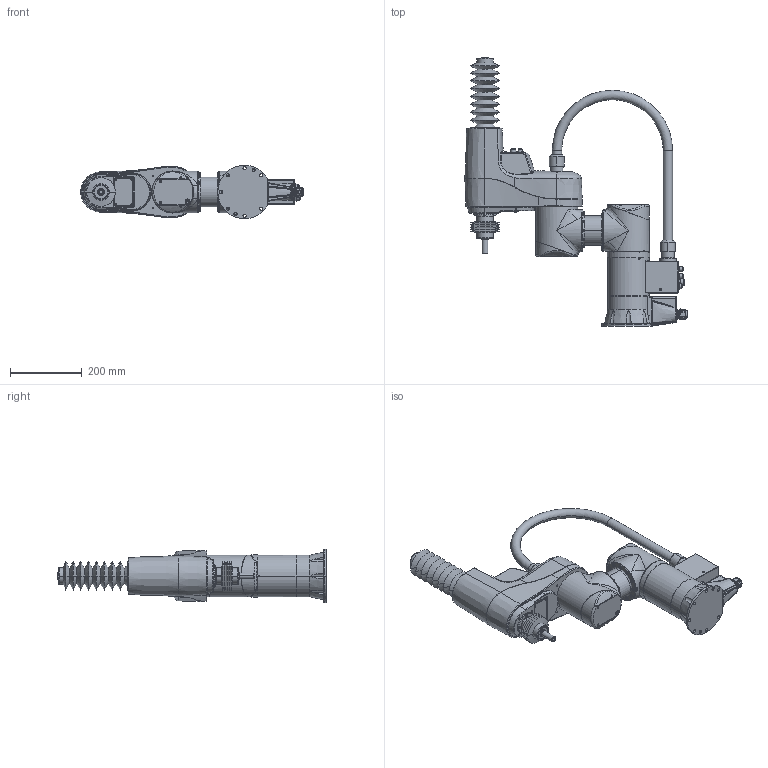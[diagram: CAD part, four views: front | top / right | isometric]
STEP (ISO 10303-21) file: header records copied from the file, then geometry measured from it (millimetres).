
FILE_DESCRIPTION((''),'2;1');
FILE_NAME('ZRB_0440C_15A_ASM','2022-12-14T11:15:32',('ChoSeongHee'),(''),'CREO PARAMETRIC BY PTC INC, 2022244','CREO PARAMETRIC BY PTC INC, 2022244','');
FILE_SCHEMA(('CONFIG_CONTROL_DESIGN'));
Products named in the file (6): BASE_ASM; MIDDLE_ASM; TOP_ASM; BOX; BALLSCREW; ZRB_0440C_15A_ASM
Assembly tree (5 placements, depth 2):
  ZRB_0440C_15A_ASM
    BASE_ASM
    MIDDLE_ASM
    TOP_ASM
    BOX
    BALLSCREW
Bounding box: 619.54 x 747.8 x 148.99 mm (x, y, z)
Volume: 13216071.1 mm3; surface area: 825782.4 mm2
Topology: 5 solids, 7 shells, 4149 faces, 10527 edges, 6491 vertices
Faces by surface type: plane 1471, cylinder 1193, cone 865, bspline 393, torus 190, sphere 20, extrusion 17
Entity records: 196567 total; most frequent: CARTESIAN_POINT 101923, ORIENTED_EDGE 20682, DIRECTION 18145, EDGE_CURVE 10341, AXIS2_PLACEMENT_3D 6968, VERTEX_POINT 6491, EDGE_LOOP 4534, VECTOR 4209
